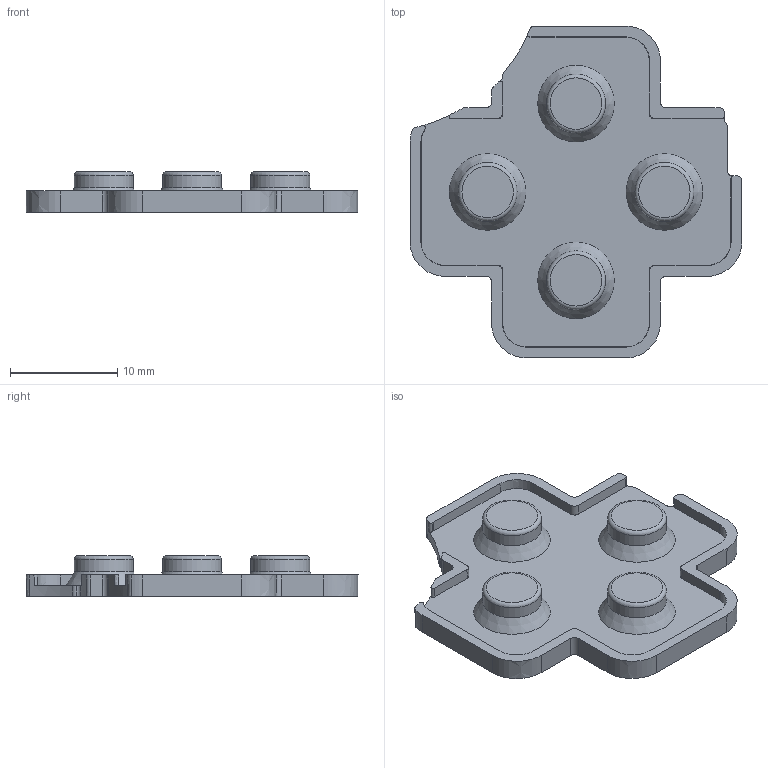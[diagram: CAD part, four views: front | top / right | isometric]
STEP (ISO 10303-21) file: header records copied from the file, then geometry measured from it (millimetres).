
FILE_DESCRIPTION(/* description */ (''),/* implementation_level */ '2;1');
FILE_NAME(/* name */ 'Silicone DPad.step',/* time_stamp */ '2026-09-22T00:48:33-07:00',/* author */ (''),/* organization */ (''),/* preprocessor_version */ 'ST-DEVELOPER v20.2',/* originating_system */ 'Autodesk Translation Framework v15.15.0.0',/* authorisation */ '');
FILE_SCHEMA (('AUTOMOTIVE_DESIGN { 1 0 10303 214 3 1 1 }'));
Length unit declared in the file: millimetre
Products named in the file (1): 2026-09-22-00-48-33-259
Bounding box: 30.99 x 30.99 x 3.8 mm (x, y, z)
Volume: 869.2 mm3; surface area: 2001.9 mm2
Topology: 1 solids, 1 shells, 143 faces, 388 edges, 256 vertices
Faces by surface type: plane 74, cylinder 25, bspline 25, cone 11, torus 8
Full cylindrical faces by diameter (mm): 4.5 x4, 5.5 x4, 6.8 x4
Entity records: 5704 total; most frequent: CARTESIAN_POINT 2142, ORIENTED_EDGE 776, DIRECTION 693, EDGE_CURVE 388, AXIS2_PLACEMENT_3D 259, VERTEX_POINT 256, LINE 175, VECTOR 175
